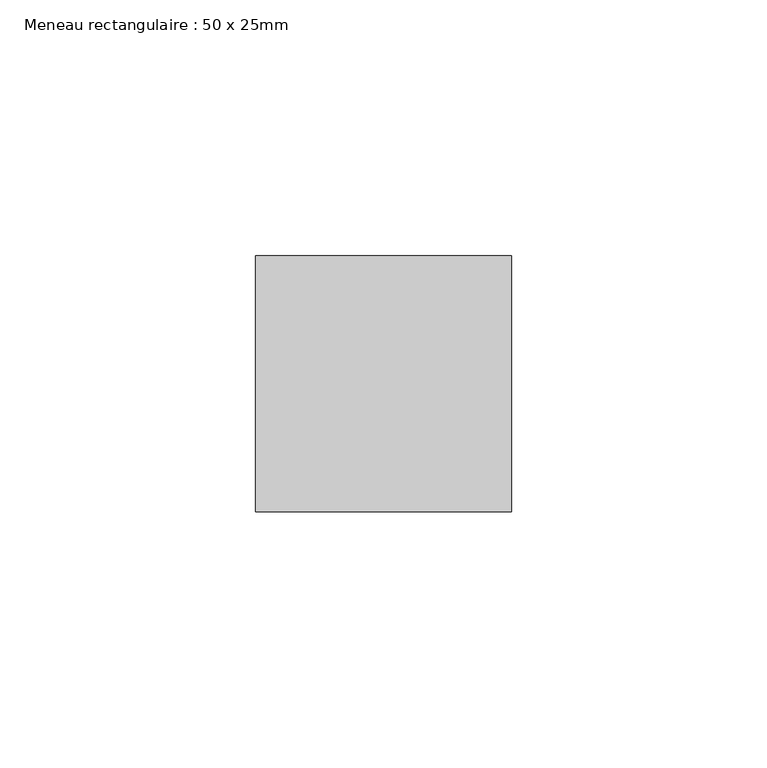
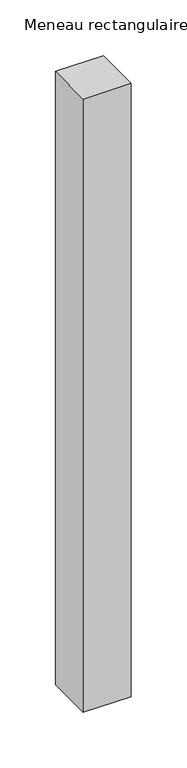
"""IFC4 building model written with IfcOpenShell, lengths in millimetres: member geometry, Meneau rectangulaire : 50 x 25mm."""

from ifc_helpers import new_model, si_unit, frame, origin, place, context, project, spatial, polyline, outline, extrude, source, transform, mapped, element, save


def meneau_rectangulaire_50_x_25mm_70afddaa(model_context):
    return source(origin(), model_context, "Body", "SweptSolid", [
        extrude(outline(polyline([(0.0, 0.0), (0.0, -50.0), (-50.0, -50.0), (-50.0, 0.0), (0.0, 0.0)])), frame((0.0, 0.0, -673.8754359), z_axis=(0.0, 0.0, 1.0), x_axis=(1.0, 0.0, 0.0)), (0.0, 0.0, 1.0), 673.8754359),
    ])


if __name__ == "__main__":
    model = new_model("IFC4")
    model_context = context("Model", 3, world=origin())
    ifc_project = project(units=[si_unit("LENGTHUNIT", "METRE", prefix="MILLI")], contexts=[model_context])
    site = spatial("IfcSite", under=ifc_project)
    building = spatial("IfcBuilding", under=site)
    placement = place(None, origin())
    meneau_rectangulaire_50_x_25mm_shape = meneau_rectangulaire_50_x_25mm_70afddaa(model_context)
    element("IfcMember", 1, ObjectType="Meneau rectangulaire : 50 x 25mm", at=placement, inside=building, context=model_context, shape_type="MappedRepresentation", body=[
        mapped(meneau_rectangulaire_50_x_25mm_shape, transform((0.0, 0.0, 0.0), x_axis=(1.0, 0.0, 0.0), y_axis=(0.0, 1.0, 0.0), z_axis=(0.0, 0.0, 1.0))),
    ])
    save(model, "model.ifc")
